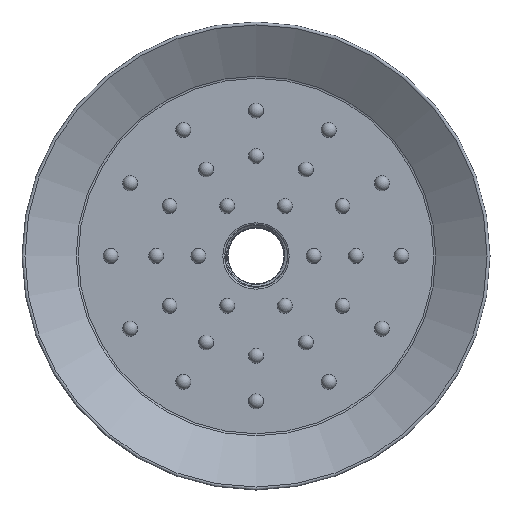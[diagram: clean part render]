
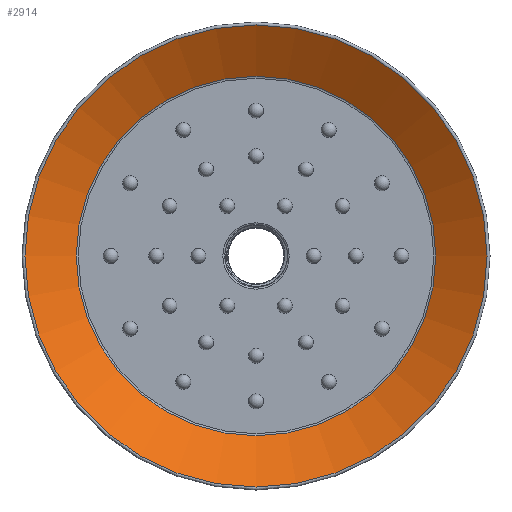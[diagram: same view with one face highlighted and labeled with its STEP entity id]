
A CAD part, front view. The second image highlights one B-rep face of the part: STEP entity #2914.
In plain terms, the highlighted conical face has half-angle 57.956 degrees and reference radius 61.958 mm.
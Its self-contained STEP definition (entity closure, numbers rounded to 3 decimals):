
#74 = EDGE_CURVE ( 'NONE', #2579, #2579, #2516, .T. ) ;
#223 = CARTESIAN_POINT ( 'NONE',  ( 48.2, 8.691, 0. ) ) ;
#267 = CARTESIAN_POINT ( 'NONE',  ( 0., 8.691, 0. ) ) ;
#570 = AXIS2_PLACEMENT_3D ( 'NONE', #943, #2793, #1487 ) ;
#943 = CARTESIAN_POINT ( 'NONE',  ( 0., 0.079, 0. ) ) ;
#1112 = CONICAL_SURFACE ( 'NONE', #2447, 61.958, 1.012 ) ;
#1127 = VERTEX_POINT ( 'NONE', #1687 ) ;
#1235 = CIRCLE ( 'NONE', #570, 61.958 ) ;
#1247 = CARTESIAN_POINT ( 'NONE',  ( 0., 0.079, 0. ) ) ;
#1475 = DIRECTION ( 'NONE',  ( 1., 0., 0. ) ) ;
#1483 = ORIENTED_EDGE ( 'NONE', *, *, #74, .T. ) ;
#1487 = DIRECTION ( 'NONE',  ( -1., 0., 0. ) ) ;
#1667 = EDGE_LOOP ( 'NONE', ( #3165 ) ) ;
#1687 = CARTESIAN_POINT ( 'NONE',  ( -61.958, 0.079, 0. ) ) ;
#1753 = DIRECTION ( 'NONE',  ( 0., -1., 0. ) ) ;
#2210 = EDGE_LOOP ( 'NONE', ( #1483 ) ) ;
#2275 = FACE_OUTER_BOUND ( 'NONE', #1667, .T. ) ;
#2447 = AXIS2_PLACEMENT_3D ( 'NONE', #1247, #1753, #1475 ) ;
#2516 = CIRCLE ( 'NONE', #3413, 48.2 ) ;
#2579 = VERTEX_POINT ( 'NONE', #223 ) ;
#2793 = DIRECTION ( 'NONE',  ( 0., 1., 0. ) ) ;
#2914 = ADVANCED_FACE ( 'NONE', ( #3334, #2275 ), #1112, .F. ) ;
#3077 = EDGE_CURVE ( 'NONE', #1127, #1127, #1235, .T. ) ;
#3131 = DIRECTION ( 'NONE',  ( 1., 0., 0. ) ) ;
#3165 = ORIENTED_EDGE ( 'NONE', *, *, #3077, .F. ) ;
#3334 = FACE_BOUND ( 'NONE', #2210, .T. ) ;
#3413 = AXIS2_PLACEMENT_3D ( 'NONE', #267, #3414, #3131 ) ;
#3414 = DIRECTION ( 'NONE',  ( 0., 1., 0. ) ) ;
